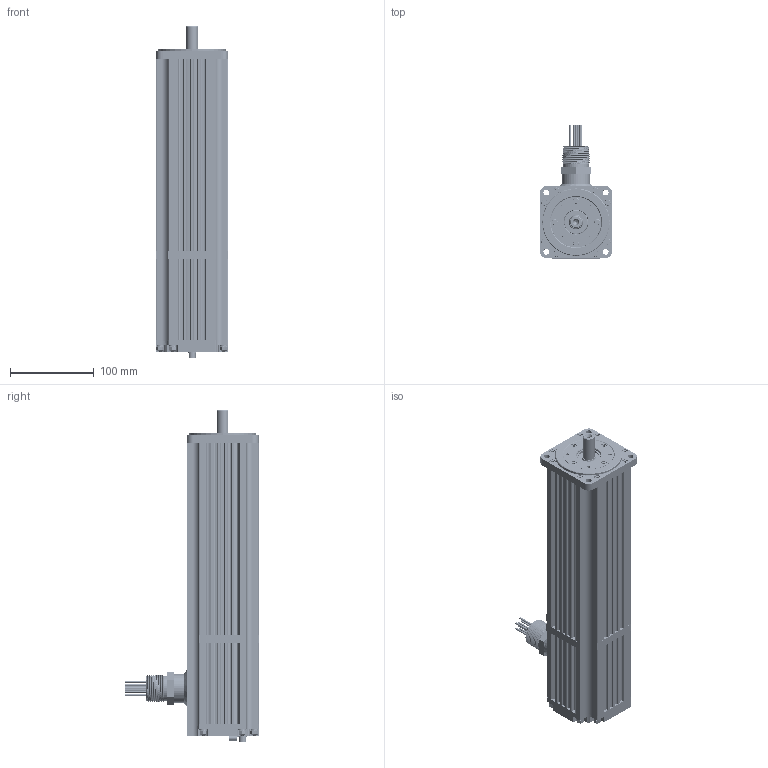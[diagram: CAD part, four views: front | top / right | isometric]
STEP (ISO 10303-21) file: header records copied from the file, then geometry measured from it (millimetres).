
FILE_DESCRIPTION (( 'STEP AP203' ), '1' );
FILE_NAME ('073540A.step', '2021-05-27T14:04:30', ( '' ), ( '' ), 'SwSTEP 2.0', 'SolidWorks 2019', '' );
FILE_SCHEMA (( 'CONFIG_CONTROL_DESIGN' ));
Products named in the file (1): 073540A
Bounding box: 86 x 159.08 x 396.39 mm (x, y, z)
Volume: 1734729.6 mm3; surface area: 582602.3 mm2
Topology: 136 solids, 138 shells, 5454 faces, 13578 edges, 8637 vertices
Faces by surface type: plane 2339, cylinder 1967, cone 552, bspline 343, torus 233, sphere 20
Entity records: 198054 total; most frequent: CARTESIAN_POINT 68324, DIRECTION 27046, ORIENTED_EDGE 26896, EDGE_CURVE 13448, AXIS2_PLACEMENT_3D 9826, VERTEX_POINT 8637, VECTOR 7394, LINE 7394
